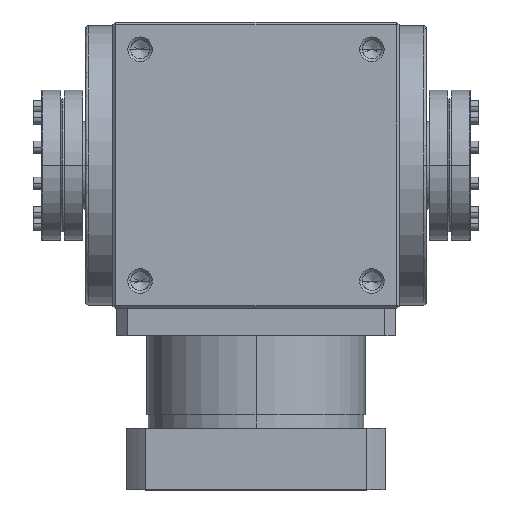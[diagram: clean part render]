
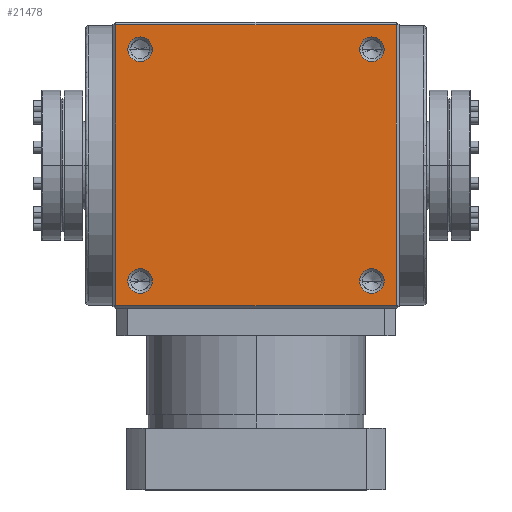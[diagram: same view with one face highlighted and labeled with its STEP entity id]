
A CAD part, top view. The second image highlights one B-rep face of the part: STEP entity #21478.
In plain terms, the highlighted planar face has unit normal (0, 0, 1).
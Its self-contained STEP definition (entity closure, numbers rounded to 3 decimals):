
#97 = VECTOR ( 'NONE', #24887, 1000. ) ;
#148 = VERTEX_POINT ( 'NONE', #8050 ) ;
#317 = CARTESIAN_POINT ( 'NONE',  ( 94., -85., 105. ) ) ;
#563 = FACE_BOUND ( 'NONE', #25738, .T. ) ;
#662 = CARTESIAN_POINT ( 'NONE',  ( 85., 85., 105. ) ) ;
#749 = ORIENTED_EDGE ( 'NONE', *, *, #10606, .F. ) ;
#1201 = CARTESIAN_POINT ( 'NONE',  ( -85., 85., 105. ) ) ;
#1400 = LINE ( 'NONE', #7345, #16668 ) ;
#2214 = VECTOR ( 'NONE', #6825, 1000. ) ;
#2675 = CIRCLE ( 'NONE', #23485, 9. ) ;
#2693 = DIRECTION ( 'NONE',  ( 1., 0., 0. ) ) ;
#3230 = DIRECTION ( 'NONE',  ( 1., 0., 0. ) ) ;
#3250 = ORIENTED_EDGE ( 'NONE', *, *, #19816, .F. ) ;
#3265 = CIRCLE ( 'NONE', #6975, 9. ) ;
#3436 = CARTESIAN_POINT ( 'NONE',  ( -103., 103., 105. ) ) ;
#3994 = ORIENTED_EDGE ( 'NONE', *, *, #6042, .F. ) ;
#4384 = CARTESIAN_POINT ( 'NONE',  ( 85., -85., 105. ) ) ;
#4755 = CARTESIAN_POINT ( 'NONE',  ( 94., 85., 105. ) ) ;
#4762 = CIRCLE ( 'NONE', #16400, 9. ) ;
#4817 = CARTESIAN_POINT ( 'NONE',  ( 0., 103., 105. ) ) ;
#5009 = EDGE_CURVE ( 'NONE', #17082, #20199, #21334, .T. ) ;
#5140 = DIRECTION ( 'NONE',  ( 0., 0., -1. ) ) ;
#5229 = CARTESIAN_POINT ( 'NONE',  ( -94., 85., 105. ) ) ;
#5267 = FACE_BOUND ( 'NONE', #21581, .T. ) ;
#5302 = ORIENTED_EDGE ( 'NONE', *, *, #25215, .F. ) ;
#5504 = CARTESIAN_POINT ( 'NONE',  ( -76., -85., 105. ) ) ;
#5620 = AXIS2_PLACEMENT_3D ( 'NONE', #1201, #15103, #3230 ) ;
#5838 = VERTEX_POINT ( 'NONE', #19469 ) ;
#5904 = CARTESIAN_POINT ( 'NONE',  ( -94., -85., 105. ) ) ;
#6042 = EDGE_CURVE ( 'NONE', #5838, #18155, #15023, .T. ) ;
#6059 = LINE ( 'NONE', #9064, #97 ) ;
#6303 = CIRCLE ( 'NONE', #24243, 9. ) ;
#6395 = DIRECTION ( 'NONE',  ( 1., 0., 0. ) ) ;
#6446 = DIRECTION ( 'NONE',  ( 0., 0., 1. ) ) ;
#6510 = CARTESIAN_POINT ( 'NONE',  ( -76., 85., 105. ) ) ;
#6544 = EDGE_CURVE ( 'NONE', #23312, #8844, #13713, .T. ) ;
#6825 = DIRECTION ( 'NONE',  ( 1., 0., 0. ) ) ;
#6938 = EDGE_LOOP ( 'NONE', ( #8141, #20907 ) ) ;
#6975 = AXIS2_PLACEMENT_3D ( 'NONE', #21650, #9817, #23651 ) ;
#7047 = ORIENTED_EDGE ( 'NONE', *, *, #25522, .F. ) ;
#7345 = CARTESIAN_POINT ( 'NONE',  ( 103., 0., 105. ) ) ;
#8050 = CARTESIAN_POINT ( 'NONE',  ( 76., 85., 105. ) ) ;
#8141 = ORIENTED_EDGE ( 'NONE', *, *, #5009, .F. ) ;
#8371 = AXIS2_PLACEMENT_3D ( 'NONE', #4384, #18272, #6395 ) ;
#8459 = AXIS2_PLACEMENT_3D ( 'NONE', #8807, #5140, #19004 ) ;
#8620 = DIRECTION ( 'NONE',  ( 0., 0., 1. ) ) ;
#8807 = CARTESIAN_POINT ( 'NONE',  ( 103., -103., 105. ) ) ;
#8844 = VERTEX_POINT ( 'NONE', #23569 ) ;
#9027 = ORIENTED_EDGE ( 'NONE', *, *, #6544, .F. ) ;
#9064 = CARTESIAN_POINT ( 'NONE',  ( 0., -103., 105. ) ) ;
#9416 = CIRCLE ( 'NONE', #21535, 9. ) ;
#9817 = DIRECTION ( 'NONE',  ( 0., 0., 1. ) ) ;
#9973 = EDGE_CURVE ( 'NONE', #18155, #5838, #6303, .T. ) ;
#10082 = CARTESIAN_POINT ( 'NONE',  ( -85., 85., 105. ) ) ;
#10274 = EDGE_CURVE ( 'NONE', #11056, #14335, #2675, .T. ) ;
#10531 = LINE ( 'NONE', #14820, #20440 ) ;
#10606 = EDGE_CURVE ( 'NONE', #8844, #10860, #1400, .T. ) ;
#10860 = VERTEX_POINT ( 'NONE', #22244 ) ;
#11042 = ORIENTED_EDGE ( 'NONE', *, *, #21864, .F. ) ;
#11056 = VERTEX_POINT ( 'NONE', #5229 ) ;
#11104 = CARTESIAN_POINT ( 'NONE',  ( -103., -103., 105. ) ) ;
#11383 = CARTESIAN_POINT ( 'NONE',  ( -85., -85., 105. ) ) ;
#11856 = EDGE_CURVE ( 'NONE', #16086, #10860, #6059, .T. ) ;
#12062 = DIRECTION ( 'NONE',  ( 1., 0., 0. ) ) ;
#12423 = AXIS2_PLACEMENT_3D ( 'NONE', #11383, #25208, #13366 ) ;
#12758 = EDGE_CURVE ( 'NONE', #20199, #17082, #4762, .T. ) ;
#13183 = DIRECTION ( 'NONE',  ( 0., 1., 0. ) ) ;
#13366 = DIRECTION ( 'NONE',  ( 1., 0., 0. ) ) ;
#13713 = LINE ( 'NONE', #4817, #2214 ) ;
#14312 = ORIENTED_EDGE ( 'NONE', *, *, #10274, .F. ) ;
#14335 = VERTEX_POINT ( 'NONE', #6510 ) ;
#14438 = VERTEX_POINT ( 'NONE', #4755 ) ;
#14573 = DIRECTION ( 'NONE',  ( 0., 0., 1. ) ) ;
#14820 = CARTESIAN_POINT ( 'NONE',  ( -103., 0., 105. ) ) ;
#15023 = CIRCLE ( 'NONE', #8371, 9. ) ;
#15035 = CIRCLE ( 'NONE', #5620, 9. ) ;
#15103 = DIRECTION ( 'NONE',  ( 0., 0., 1. ) ) ;
#16086 = VERTEX_POINT ( 'NONE', #11104 ) ;
#16400 = AXIS2_PLACEMENT_3D ( 'NONE', #18324, #6446, #20274 ) ;
#16668 = VECTOR ( 'NONE', #25166, 1000. ) ;
#16865 = ORIENTED_EDGE ( 'NONE', *, *, #11856, .T. ) ;
#17017 = PLANE ( 'NONE',  #8459 ) ;
#17082 = VERTEX_POINT ( 'NONE', #5504 ) ;
#18155 = VERTEX_POINT ( 'NONE', #317 ) ;
#18272 = DIRECTION ( 'NONE',  ( 0., 0., 1. ) ) ;
#18324 = CARTESIAN_POINT ( 'NONE',  ( -85., -85., 105. ) ) ;
#19004 = DIRECTION ( 'NONE',  ( -1., 0., 0. ) ) ;
#19469 = CARTESIAN_POINT ( 'NONE',  ( 76., -85., 105. ) ) ;
#19816 = EDGE_CURVE ( 'NONE', #148, #14438, #9416, .T. ) ;
#19898 = ORIENTED_EDGE ( 'NONE', *, *, #9973, .F. ) ;
#20199 = VERTEX_POINT ( 'NONE', #5904 ) ;
#20274 = DIRECTION ( 'NONE',  ( 1., 0., 0. ) ) ;
#20440 = VECTOR ( 'NONE', #13183, 1000. ) ;
#20463 = FACE_OUTER_BOUND ( 'NONE', #22600, .T. ) ;
#20467 = CARTESIAN_POINT ( 'NONE',  ( 85., -85., 105. ) ) ;
#20907 = ORIENTED_EDGE ( 'NONE', *, *, #12758, .F. ) ;
#21334 = CIRCLE ( 'NONE', #12423, 9. ) ;
#21478 = ADVANCED_FACE ( 'NONE', ( #563, #5267, #21709, #25718, #20463 ), #17017, .F. ) ;
#21535 = AXIS2_PLACEMENT_3D ( 'NONE', #662, #14573, #2693 ) ;
#21550 = EDGE_LOOP ( 'NONE', ( #19898, #3994 ) ) ;
#21581 = EDGE_LOOP ( 'NONE', ( #5302, #3250 ) ) ;
#21650 = CARTESIAN_POINT ( 'NONE',  ( 85., 85., 105. ) ) ;
#21709 = FACE_BOUND ( 'NONE', #6938, .T. ) ;
#21864 = EDGE_CURVE ( 'NONE', #16086, #23312, #10531, .T. ) ;
#22244 = CARTESIAN_POINT ( 'NONE',  ( 103., -103., 105. ) ) ;
#22457 = DIRECTION ( 'NONE',  ( 1., 0., 0. ) ) ;
#22600 = EDGE_LOOP ( 'NONE', ( #16865, #749, #9027, #11042 ) ) ;
#23312 = VERTEX_POINT ( 'NONE', #3436 ) ;
#23485 = AXIS2_PLACEMENT_3D ( 'NONE', #10082, #23918, #12062 ) ;
#23569 = CARTESIAN_POINT ( 'NONE',  ( 103., 103., 105. ) ) ;
#23651 = DIRECTION ( 'NONE',  ( 1., 0., 0. ) ) ;
#23918 = DIRECTION ( 'NONE',  ( 0., 0., 1. ) ) ;
#24243 = AXIS2_PLACEMENT_3D ( 'NONE', #20467, #8620, #22457 ) ;
#24887 = DIRECTION ( 'NONE',  ( 1., 0., 0. ) ) ;
#25166 = DIRECTION ( 'NONE',  ( 0., -1., 0. ) ) ;
#25208 = DIRECTION ( 'NONE',  ( 0., 0., 1. ) ) ;
#25215 = EDGE_CURVE ( 'NONE', #14438, #148, #3265, .T. ) ;
#25522 = EDGE_CURVE ( 'NONE', #14335, #11056, #15035, .T. ) ;
#25718 = FACE_BOUND ( 'NONE', #21550, .T. ) ;
#25738 = EDGE_LOOP ( 'NONE', ( #7047, #14312 ) ) ;
